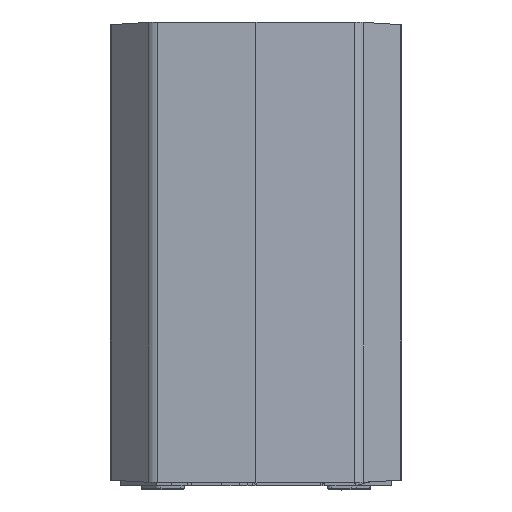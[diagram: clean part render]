
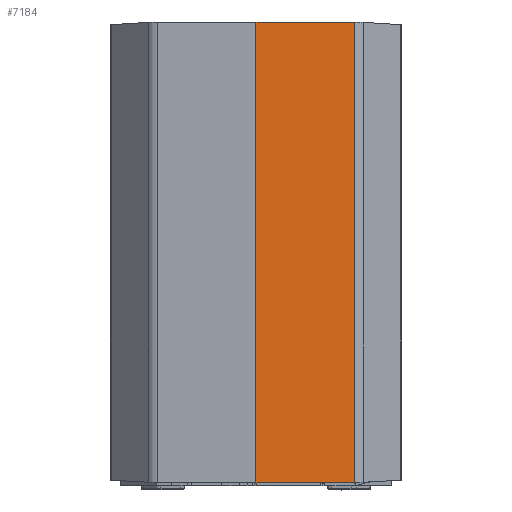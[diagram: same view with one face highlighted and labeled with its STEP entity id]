
A CAD part, top view. The second image highlights one B-rep face of the part: STEP entity #7184.
In plain terms, the highlighted free-form (B-spline) face has degree [3, 1] with [4, 2] control points.
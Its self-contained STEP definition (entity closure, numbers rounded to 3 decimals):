
#961 = CARTESIAN_POINT ( 'NONE',  ( 74.422, 248.493, 54.981 ) ) ;
#1019 = CARTESIAN_POINT ( 'NONE',  ( 37.208, 248.547, 56.014 ) ) ;
#1194 = ORIENTED_EDGE ( 'NONE', *, *, #1938, .F. ) ;
#1252 = CARTESIAN_POINT ( 'NONE',  ( -0.001, 248.547, 56.014 ) ) ;
#1282 = LINE ( 'NONE', #8834, #5508 ) ;
#1761 = CARTESIAN_POINT ( 'NONE',  ( -0.001, 251.685, 56.014 ) ) ;
#1938 = EDGE_CURVE ( 'NONE', #6990, #5461, #4925, .T. ) ;
#2646 = CARTESIAN_POINT ( 'NONE',  ( 111.591, -277.637, 52.915 ) ) ;
#3331 = CARTESIAN_POINT ( 'NONE',  ( 37.225, -274.499, 56.014 ) ) ;
#4332 = CARTESIAN_POINT ( 'NONE',  ( 111.591, 251.685, 52.915 ) ) ;
#4740 = ORIENTED_EDGE ( 'NONE', *, *, #5591, .F. ) ;
#4925 = B_SPLINE_CURVE_WITH_KNOTS ( 'NONE', 3,
 ( #8461, #7628, #3331, #6771 ),
 .UNSPECIFIED., .F., .F.,
 ( 4, 4 ),
 ( 0., 1. ),
 .UNSPECIFIED. ) ;
#5131 = CARTESIAN_POINT ( 'NONE',  ( 74.431, -277.637, 54.98 ) ) ;
#5191 = CARTESIAN_POINT ( 'NONE',  ( 37.217, -277.637, 56.014 ) ) ;
#5358 = CARTESIAN_POINT ( 'NONE',  ( -0.001, -277.637, 56.014 ) ) ;
#5461 = VERTEX_POINT ( 'NONE', #6256 ) ;
#5508 = VECTOR ( 'NONE', #8782, 1000. ) ;
#5591 = EDGE_CURVE ( 'NONE', #7461, #6990, #9910, .T. ) ;
#5599 = VERTEX_POINT ( 'NONE', #1252 ) ;
#5952 = ORIENTED_EDGE ( 'NONE', *, *, #10133, .T. ) ;
#6033 = FACE_OUTER_BOUND ( 'NONE', #9569, .T. ) ;
#6256 = CARTESIAN_POINT ( 'NONE',  ( -0.001, -274.499, 56.014 ) ) ;
#6362 = ORIENTED_EDGE ( 'NONE', *, *, #7738, .T. ) ;
#6379 = CARTESIAN_POINT ( 'NONE',  ( 111.591, -274.336, 52.915 ) ) ;
#6462 = CARTESIAN_POINT ( 'NONE',  ( 111.591, 699.441, 52.915 ) ) ;
#6771 = CARTESIAN_POINT ( 'NONE',  ( -0.001, -274.499, 56.014 ) ) ;
#6990 = VERTEX_POINT ( 'NONE', #6379 ) ;
#7024 = B_SPLINE_SURFACE_WITH_KNOTS ( 'NONE', 3, 1, ( 
 ( #1761, #5358 ),
 ( #10373, #5191 ),
 ( #7848, #5131 ),
 ( #4332, #2646 ) ),
 .UNSPECIFIED., .F., .F., .F.,
 ( 4, 4 ),
 ( 2, 2 ),
 ( 0.051, 1. ),
 ( 0., 1. ),
 .UNSPECIFIED. ) ;
#7184 = ADVANCED_FACE ( 'NONE', ( #6033 ), #7024, .F. ) ;
#7430 = VECTOR ( 'NONE', #9060, 1000. ) ;
#7461 = VERTEX_POINT ( 'NONE', #8489 ) ;
#7628 = CARTESIAN_POINT ( 'NONE',  ( 74.422, -274.444, 54.981 ) ) ;
#7738 = EDGE_CURVE ( 'NONE', #5599, #5461, #1282, .T. ) ;
#7848 = CARTESIAN_POINT ( 'NONE',  ( 74.431, 251.685, 54.98 ) ) ;
#7944 = CARTESIAN_POINT ( 'NONE',  ( -0.001, 248.547, 56.014 ) ) ;
#8461 = CARTESIAN_POINT ( 'NONE',  ( 111.591, -274.336, 52.915 ) ) ;
#8489 = CARTESIAN_POINT ( 'NONE',  ( 111.591, 248.384, 52.915 ) ) ;
#8782 = DIRECTION ( 'NONE',  ( 0., -1., 0. ) ) ;
#8834 = CARTESIAN_POINT ( 'NONE',  ( -0.001, 699.441, 56.014 ) ) ;
#8888 = CARTESIAN_POINT ( 'NONE',  ( 111.591, 248.384, 52.915 ) ) ;
#8935 = B_SPLINE_CURVE_WITH_KNOTS ( 'NONE', 3,
 ( #8888, #961, #1019, #7944 ),
 .UNSPECIFIED., .F., .F.,
 ( 4, 4 ),
 ( 0., 1. ),
 .UNSPECIFIED. ) ;
#9060 = DIRECTION ( 'NONE',  ( 0., -1., 0. ) ) ;
#9569 = EDGE_LOOP ( 'NONE', ( #4740, #5952, #6362, #1194 ) ) ;
#9910 = LINE ( 'NONE', #6462, #7430 ) ;
#10133 = EDGE_CURVE ( 'NONE', #7461, #5599, #8935, .T. ) ;
#10373 = CARTESIAN_POINT ( 'NONE',  ( 37.217, 251.685, 56.014 ) ) ;
